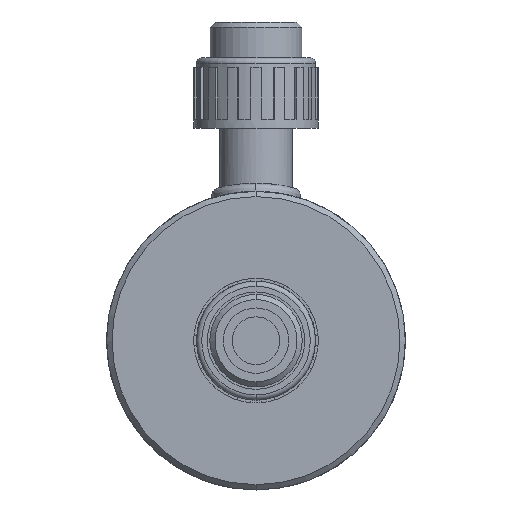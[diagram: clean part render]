
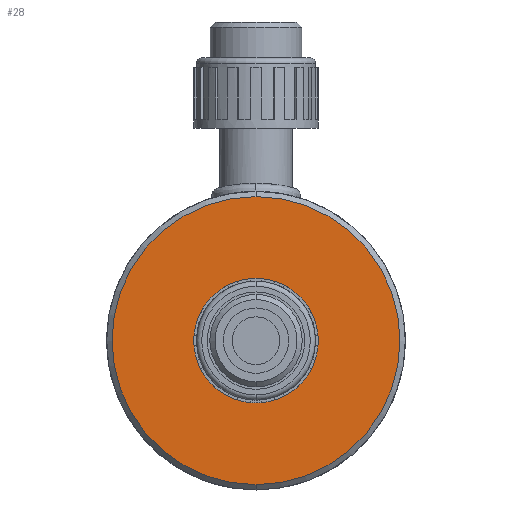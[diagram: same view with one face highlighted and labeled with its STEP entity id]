
A CAD part, front view. The second image highlights one B-rep face of the part: STEP entity #28.
In plain terms, the highlighted planar face has unit normal (0, -1, 0).
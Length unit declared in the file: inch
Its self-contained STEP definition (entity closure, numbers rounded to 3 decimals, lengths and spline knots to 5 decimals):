
#28 = ADVANCED_FACE ( 'NONE', ( #3601, #9245 ), #9808, .F. ) ;
#62 = EDGE_LOOP ( 'NONE', ( #2157, #7450 ) ) ;
#190 = CARTESIAN_POINT ( 'NONE',  ( 0., 0., 1.663 ) ) ;
#254 = VERTEX_POINT ( 'NONE', #1235 ) ;
#576 = AXIS2_PLACEMENT_3D ( 'NONE', #1953, #7353, #2730 ) ;
#701 = EDGE_CURVE ( 'NONE', #1183, #254, #3128, .T. ) ;
#1183 = VERTEX_POINT ( 'NONE', #2171 ) ;
#1199 = ORIENTED_EDGE ( 'NONE', *, *, #3694, .T. ) ;
#1235 = CARTESIAN_POINT ( 'NONE',  ( 0., 0., -0.513 ) ) ;
#1953 = CARTESIAN_POINT ( 'NONE',  ( 0., 0., 0. ) ) ;
#2120 = VERTEX_POINT ( 'NONE', #5465 ) ;
#2157 = ORIENTED_EDGE ( 'NONE', *, *, #701, .T. ) ;
#2171 = CARTESIAN_POINT ( 'NONE',  ( 0., 0., 0.513 ) ) ;
#2682 = CARTESIAN_POINT ( 'NONE',  ( 0., 0., 0. ) ) ;
#2730 = DIRECTION ( 'NONE',  ( 0., 0., 1. ) ) ;
#2734 = CIRCLE ( 'NONE', #7809, 0.513 ) ;
#2824 = AXIS2_PLACEMENT_3D ( 'NONE', #3216, #8600, #4023 ) ;
#2906 = DIRECTION ( 'NONE',  ( 0., 1., 0. ) ) ;
#3128 = CIRCLE ( 'NONE', #576, 0.513 ) ;
#3216 = CARTESIAN_POINT ( 'NONE',  ( 0., 0., 0. ) ) ;
#3474 = DIRECTION ( 'NONE',  ( 0., 0., 1. ) ) ;
#3601 = FACE_BOUND ( 'NONE', #62, .T. ) ;
#3679 = AXIS2_PLACEMENT_3D ( 'NONE', #8568, #3984, #9331 ) ;
#3694 = EDGE_CURVE ( 'NONE', #2120, #4580, #9230, .T. ) ;
#3977 = EDGE_CURVE ( 'NONE', #4580, #2120, #7072, .T. ) ;
#3984 = DIRECTION ( 'NONE',  ( 0., -1., 0. ) ) ;
#4023 = DIRECTION ( 'NONE',  ( 0., 0., 1. ) ) ;
#4580 = VERTEX_POINT ( 'NONE', #190 ) ;
#5465 = CARTESIAN_POINT ( 'NONE',  ( 0., 0., -1.663 ) ) ;
#5980 = CARTESIAN_POINT ( 'NONE',  ( 0., 0., 0. ) ) ;
#6164 = EDGE_CURVE ( 'NONE', #254, #1183, #2734, .T. ) ;
#6263 = ORIENTED_EDGE ( 'NONE', *, *, #3977, .T. ) ;
#7072 = CIRCLE ( 'NONE', #3679, 1.663 ) ;
#7353 = DIRECTION ( 'NONE',  ( 0., 1., 0. ) ) ;
#7450 = ORIENTED_EDGE ( 'NONE', *, *, #6164, .T. ) ;
#7809 = AXIS2_PLACEMENT_3D ( 'NONE', #2682, #8087, #3474 ) ;
#8087 = DIRECTION ( 'NONE',  ( 0., 1., 0. ) ) ;
#8287 = DIRECTION ( 'NONE',  ( 0., 0., 1. ) ) ;
#8568 = CARTESIAN_POINT ( 'NONE',  ( 0., 0., 0. ) ) ;
#8600 = DIRECTION ( 'NONE',  ( 0., -1., 0. ) ) ;
#9032 = EDGE_LOOP ( 'NONE', ( #6263, #1199 ) ) ;
#9230 = CIRCLE ( 'NONE', #2824, 1.663 ) ;
#9245 = FACE_OUTER_BOUND ( 'NONE', #9032, .T. ) ;
#9331 = DIRECTION ( 'NONE',  ( 0., 0., 1. ) ) ;
#9669 = AXIS2_PLACEMENT_3D ( 'NONE', #5980, #2906, #8287 ) ;
#9808 = PLANE ( 'NONE',  #9669 ) ;
